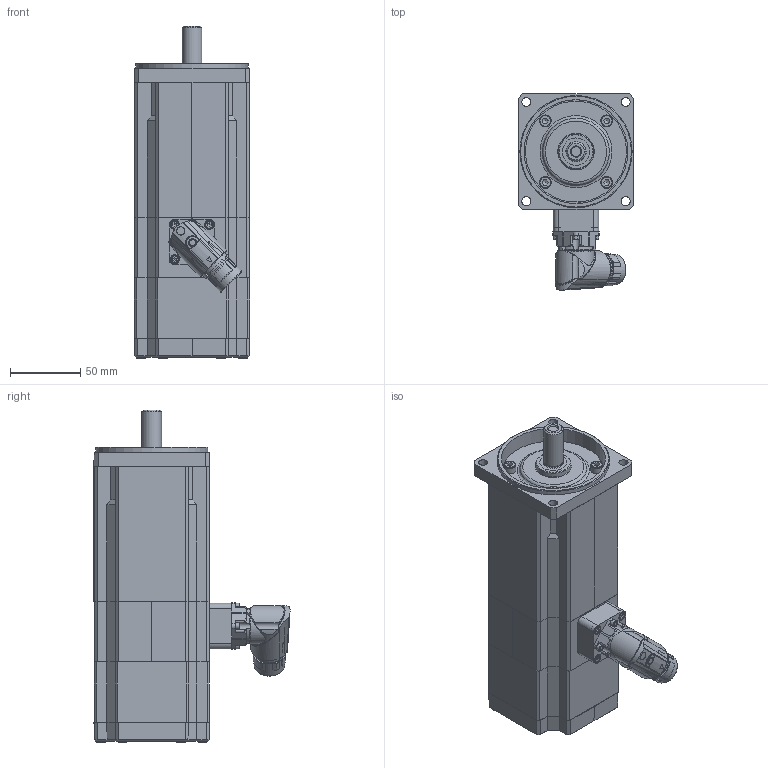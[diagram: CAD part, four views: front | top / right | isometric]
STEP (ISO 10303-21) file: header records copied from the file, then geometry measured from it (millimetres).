
FILE_DESCRIPTION(/* description */ (''),/* implementation_level */ '2;1');
FILE_NAME(/* name */ 'D:\InventorWorkspace2017\CAD\Projekte_EDEM\HLR\Zubehörteile\SMHA826003814SIZ64S62.stp',/* time_stamp */ '2019-02-13T12:41:10+01:00',/* author */ ('544672'),/* organization */ (''),/* preprocessor_version */ 'ST-DEVELOPER v16.5',/* originating_system */ 'Autodesk Inventor 2017',/* authorisation */ '');
FILE_SCHEMA (('AUTOMOTIVE_DESIGN { 1 0 10303 214 3 1 1 }'));
Length unit declared in the file: millimetre
Products named in the file (1): SMHA826003814SIZ64S62
Bounding box: 82.45 x 139.76 x 236.6 mm (x, y, z)
Volume: 1252647.4 mm3; surface area: 96442.5 mm2
Topology: 1 solids, 1 shells, 870 faces, 2184 edges, 1385 vertices
Faces by surface type: plane 509, cylinder 166, bspline 99, cone 68, torus 28
Full cylindrical faces by diameter (mm): 1 x4, 1.18 x4, 1.75 x1, 1.945 x1, 2 x4, 2.8 x4, 3 x4, 4.5 x5, 5.5 x4, 5.8 x1, 5.9 x1, 6.5 x8, 6.8 x1, 7 x4, 7.5 x4, 8.5 x4, 14 x1, 19.9 x1, 21.145 x1, 21.6 x1, 21.8 x1, 21.9 x1, 24.4 x1, 25 x1, 72 x1, 74 x1, 80 x1
Entity records: 28492 total; most frequent: CARTESIAN_POINT 8172, ORIENTED_EDGE 4042, DIRECTION 3760, EDGE_CURVE 2021, VERTEX_POINT 1337, AXIS2_PLACEMENT_3D 1295, LINE 1170, VECTOR 1170
